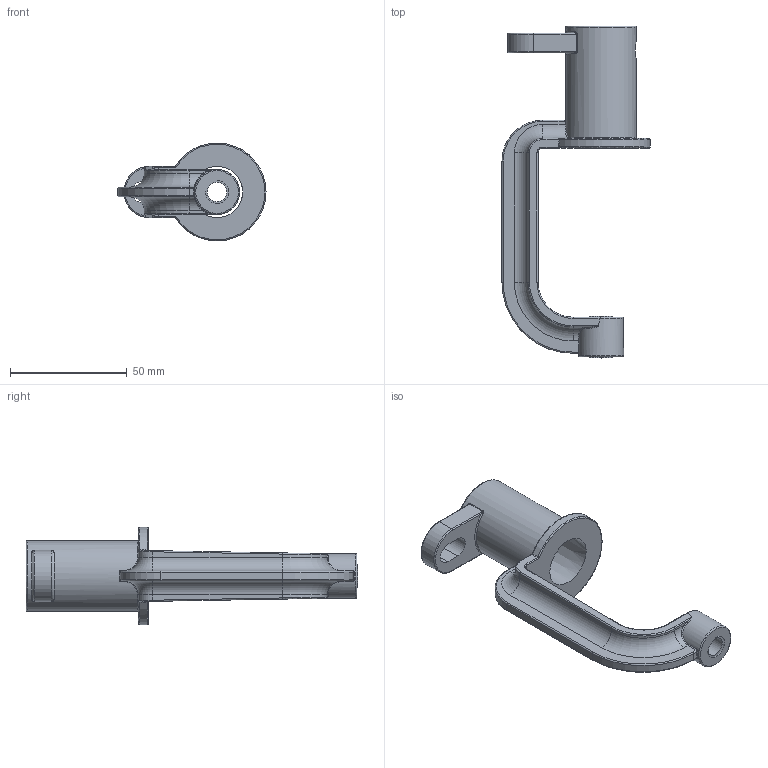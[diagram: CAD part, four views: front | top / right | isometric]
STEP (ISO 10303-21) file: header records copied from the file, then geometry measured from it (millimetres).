
FILE_DESCRIPTION(/* description */ (''),/* implementation_level */ '2;1');
FILE_NAME(/* name */ 'H:\5-Olympiades\47e\Sujet Régional\Etau\A donner aux candidats\2-Après-Midi\13-Support.stp',/* time_stamp */ '2022-03-30T09:28:35+02:00',/* author */ ('Philippe'),/* organization */ (''),/* preprocessor_version */ 'ST-DEVELOPER v18',/* originating_system */ 'Autodesk Inventor 2020',/* authorisation */ '');
FILE_SCHEMA (('CONFIG_CONTROL_DESIGN'));
Length unit declared in the file: millimetre
Products named in the file (1): 13-Support
Bounding box: 63.5 x 142.4 x 41.99 mm (x, y, z)
Volume: 41800.1 mm3; surface area: 21298.8 mm2
Topology: 1 solids, 2 shells, 136 faces, 337 edges, 199 vertices
Faces by surface type: cylinder 51, bspline 38, torus 23, plane 23, cone 1
Full cylindrical faces by diameter (mm): 8.376 x1, 8.4 x1, 19.3 x1, 30.3 x1
Entity records: 5147 total; most frequent: CARTESIAN_POINT 1994, ORIENTED_EDGE 662, DIRECTION 645, EDGE_CURVE 333, AXIS2_PLACEMENT_3D 271, VERTEX_POINT 199, CIRCLE 148, EDGE_LOOP 143
